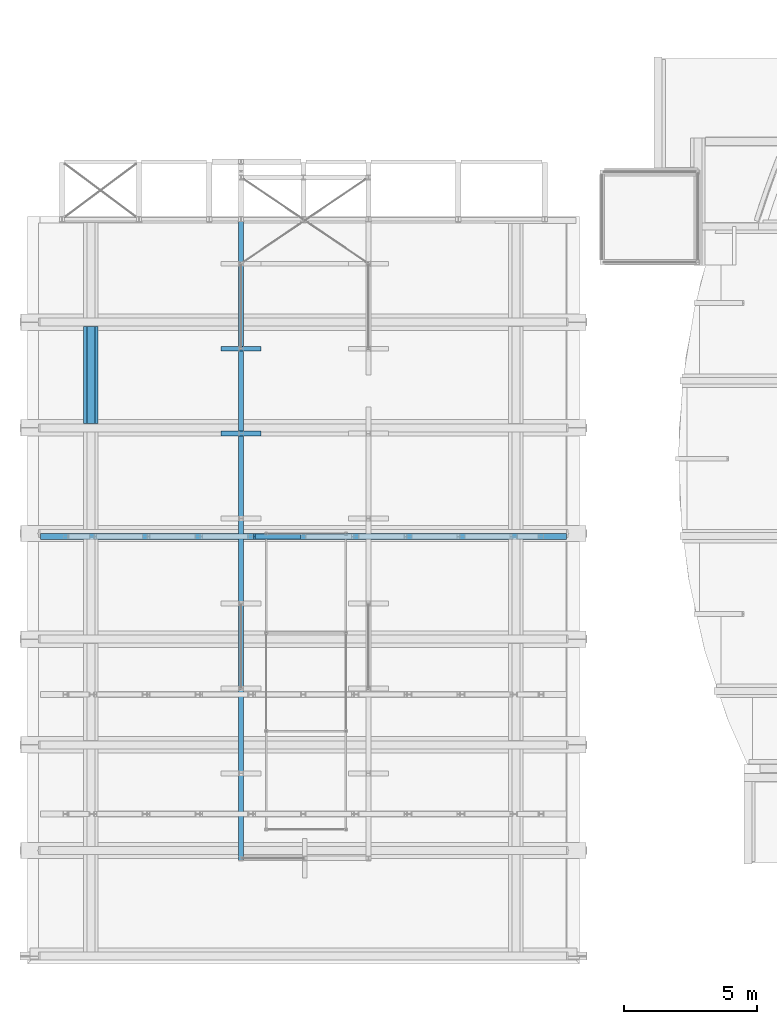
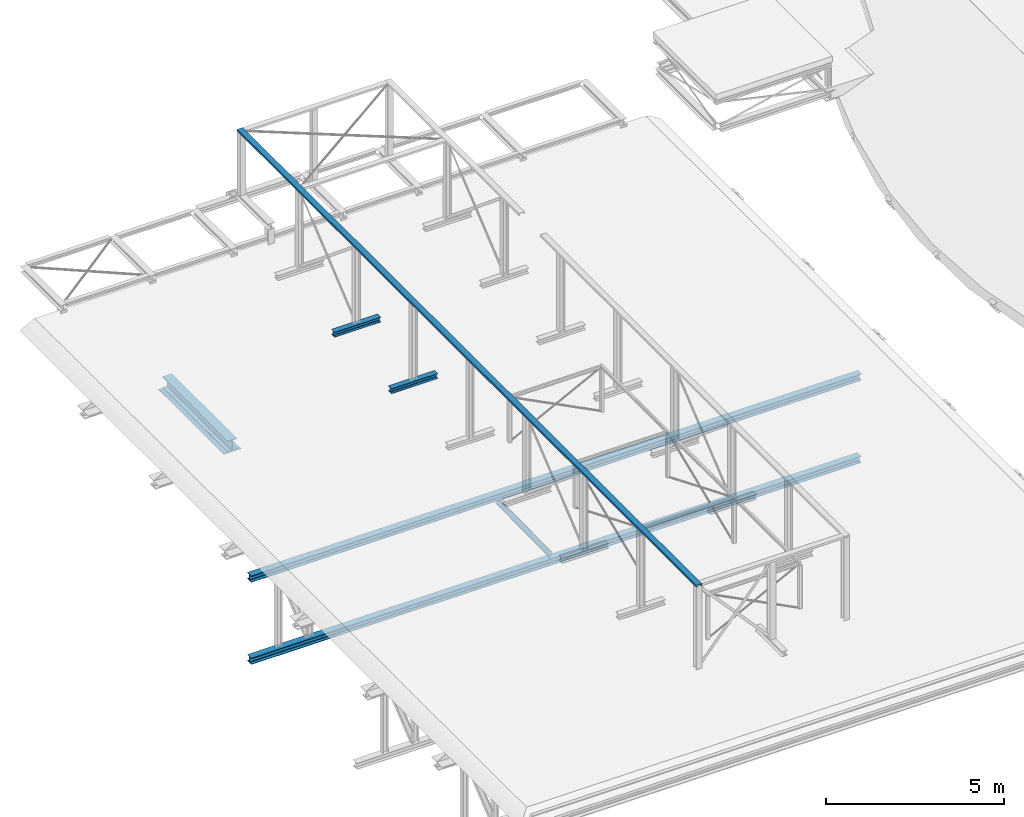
# One storey, part 17 of 50: 7 beams.
"""IFC2X3 building model written with IfcOpenShell, lengths in millimetres."""

from ifc_helpers import new_model, entity, si_unit, converted_unit, derived_unit, direction, frame, frame_2d, origin, place, context, subcontext, project, spatial, polyline, circle_curve, parameter, trimmed, segment, composite_curve, rectangle, i_section, outline, extrude, clip, halfspace, source, transform, mapped, material, material_list, type_object, type_shapes, element, save


model = new_model("IFC2X3")

# Units and contexts
model_context = context("Model", 3, precision=0.01, world=origin(), true_north=direction((6.12303176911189e-17, 1.0)))
body_context = subcontext(model_context, "Body", "Model", "MODEL_VIEW")
ifc_project = project(units=[si_unit("LENGTHUNIT", "METRE", prefix="MILLI"), si_unit("AREAUNIT", "SQUARE_METRE", prefix="MILLI"), si_unit("VOLUMEUNIT", "CUBIC_METRE"), converted_unit("PLANEANGLEUNIT", "DEGREE", entity("IfcRatioMeasure", 0.0174532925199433), si_unit("PLANEANGLEUNIT", "RADIAN"), dimensions=[0, 0, 0, 0, 0, 0, 0]), si_unit("MASSUNIT", "GRAM", prefix="KILO"), derived_unit("MASSDENSITYUNIT", [(si_unit("MASSUNIT", "GRAM", prefix="KILO"), 1), (si_unit("LENGTHUNIT", "METRE"), -3)]), derived_unit("MOMENTOFINERTIAUNIT", [(si_unit("LENGTHUNIT", "METRE"), 4)]), si_unit("TIMEUNIT", "SECOND"), si_unit("FREQUENCYUNIT", "HERTZ"), si_unit("THERMODYNAMICTEMPERATUREUNIT", "DEGREE_CELSIUS"), derived_unit("THERMALTRANSMITTANCEUNIT", [(si_unit("MASSUNIT", "GRAM", prefix="KILO"), 1), (si_unit("THERMODYNAMICTEMPERATUREUNIT", "KELVIN"), -1), (si_unit("TIMEUNIT", "SECOND"), -3)]), derived_unit("VOLUMETRICFLOWRATEUNIT", [(si_unit("LENGTHUNIT", "METRE"), 3), (si_unit("TIMEUNIT", "SECOND"), -1)]), si_unit("ELECTRICCURRENTUNIT", "AMPERE"), si_unit("ELECTRICVOLTAGEUNIT", "VOLT"), si_unit("POWERUNIT", "WATT"), si_unit("FORCEUNIT", "NEWTON", prefix="KILO"), si_unit("ILLUMINANCEUNIT", "LUX"), si_unit("LUMINOUSFLUXUNIT", "LUMEN"), si_unit("LUMINOUSINTENSITYUNIT", "CANDELA"), derived_unit("USERDEFINED", [(si_unit("MASSUNIT", "GRAM", prefix="KILO"), -1), (si_unit("LENGTHUNIT", "METRE"), -2), (si_unit("TIMEUNIT", "SECOND"), 3), (si_unit("LUMINOUSFLUXUNIT", "LUMEN"), 1)]), derived_unit("LINEARVELOCITYUNIT", [(si_unit("LENGTHUNIT", "METRE"), 1), (si_unit("TIMEUNIT", "SECOND"), -1)]), si_unit("PRESSUREUNIT", "PASCAL"), derived_unit("USERDEFINED", [(si_unit("LENGTHUNIT", "METRE"), -2), (si_unit("MASSUNIT", "GRAM", prefix="KILO"), 1), (si_unit("TIMEUNIT", "SECOND"), -2)]), derived_unit("LINEARFORCEUNIT", [(si_unit("MASSUNIT", "GRAM", prefix="KILO"), 1), (si_unit("LENGTHUNIT", "METRE"), 1), (si_unit("TIMEUNIT", "SECOND"), -2), (si_unit("LENGTHUNIT", "METRE"), -1)]), derived_unit("PLANARFORCEUNIT", [(si_unit("MASSUNIT", "GRAM", prefix="KILO"), 1), (si_unit("LENGTHUNIT", "METRE"), 1), (si_unit("TIMEUNIT", "SECOND"), -2), (si_unit("LENGTHUNIT", "METRE"), -2)])], contexts=[model_context])

# Site, building, storey
site_placement = place(None, origin())
site = spatial("IfcSite", under=ifc_project, at=site_placement, Name="Theater aan de Parade", CompositionType="ELEMENT")
building_placement = place(site_placement, origin())
building = spatial("IfcBuilding", under=site, at=building_placement, Name="Theater aan de Parade", CompositionType="ELEMENT")
storey_placement = place(building_placement, frame((0.0, 0.0, 15820.0)))
storey = spatial("IfcBuildingStorey", under=building, at=storey_placement, Name="04 vierde verdieping", CompositionType="ELEMENT", Elevation=15820.0)

# Beams
ifc_material_1 = material(Name="00_PBT_MAT_staal_S355")
beam_type_1 = type_object("IfcBeamType", Name="28_PBT_SF_staal_H-profiel:S355_HE220B", PredefinedType="NOTDEFINED")
beam_1_placement = place(storey_placement, frame((16193.8569884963, 29518.2922984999, -4340.0)))
element("IfcBeam", 1, at=beam_1_placement, inside=storey, type_object=beam_type_1, material=ifc_material_1, Name="28_PBT_SF_staal_H-profiel:S355_HE220B", ObjectType="28_PBT_SF_staal_H-profiel:S355_HE220B", context=body_context, shape_type="SweptSolid", body=[
    extrude(i_section(OverallWidth=220.000000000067, OverallDepth=220.0, WebThickness=9.49999999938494, FlangeThickness=15.9999999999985, FilletRadius=18.0000000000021, at=frame_2d((-1.08713038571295e-12, -2.16715534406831e-12), x_axis=(0.0, 1.0))), frame((0.0, 0.0, 0.0), z_axis=(1.0, 0.0, 0.0), x_axis=(0.0, 0.0, -1.0)), (0.0, 0.0, 1.0), 19820.0),
])
beam_2_placement = place(storey_placement, frame((16193.8569884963, 29518.2922984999, -1520.0)))
element("IfcBeam", 2, at=beam_2_placement, inside=storey, type_object=beam_type_1, material=ifc_material_1, Name="28_PBT_SF_staal_H-profiel:S355_HE220B", ObjectType="28_PBT_SF_staal_H-profiel:S355_HE220B", context=body_context, shape_type="SweptSolid", body=[
    extrude(i_section(OverallWidth=220.000000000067, OverallDepth=220.0, WebThickness=9.49999999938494, FlangeThickness=15.9999999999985, FilletRadius=18.0000000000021, at=frame_2d((1.08713038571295e-12, -2.16715534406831e-12), x_axis=(0.0, 1.0))), frame((0.0, 0.0, 0.0), z_axis=(1.0, 0.0, 0.0), x_axis=(0.0, 0.0, -1.0)), (0.0, 0.0, 1.0), 19820.0),
])
beam_type_2 = type_object("IfcBeamType", Name="28_PBT_SF_staal_H-profiel:S355_HE180A", PredefinedType="NOTDEFINED")
beam_3_placement = place(storey_placement, frame((24111.8569884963, 29518.2922984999, -1520.0), z_axis=(0.816775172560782, 0.0, 0.576956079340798), x_axis=(0.576956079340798, 0.0, -0.816775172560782)))
element("IfcBeam", 3, at=beam_3_placement, inside=storey, type_object=beam_type_2, material=ifc_material_1, Name="28_PBT_SF_staal_H-profiel:S355_HE180A", ObjectType="28_PBT_SF_staal_H-profiel:S355_HE180A", context=body_context, shape_type="Clipping", body=[
    clip(clip(extrude(outline(composite_curve([segment(polyline([(76.0, -90.0), (85.4999999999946, -90.0)]), True, "CONTINUOUS"), segment(polyline([(85.4999999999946, -90.0), (85.4999999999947, 90.0)]), True, "CONTINUOUS"), segment(polyline([(85.4999999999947, 90.0), (76.0, 90.0)]), True, "CONTINUOUS"), segment(polyline([(76.0, 90.0), (76.0, 18.0)]), True, "CONTINUOUS"), segment(trimmed(circle_curve(frame_2d((61.0, 18.0), x_axis=(1.0, 0.0)), 14.9999999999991), [parameter(270.0)], [parameter(0.0)], True, "PARAMETER"), False, "CONTINUOUS"), segment(polyline([(61.0, 3.0), (-61.0, 3.0)]), True, "CONTINUOUS"), segment(trimmed(circle_curve(frame_2d((-61.0, 18.0), x_axis=(0.0, -1.0)), 14.9999999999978), [parameter(269.999999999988)], [parameter(0.0)], True, "PARAMETER"), False, "CONTINUOUS"), segment(polyline([(-76.0, 18.0), (-76.0, 90.0)]), True, "CONTINUOUS"), segment(polyline([(-76.0, 90.0), (-85.5000000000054, 90.0)]), True, "CONTINUOUS"), segment(polyline([(-85.5000000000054, 90.0), (-85.5000000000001, -90.0)]), True, "CONTINUOUS"), segment(polyline([(-85.5000000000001, -90.0), (-76.0, -90.0)]), True, "CONTINUOUS"), segment(polyline([(-76.0, -90.0), (-76.0, -18.0)]), True, "CONTINUOUS"), segment(trimmed(circle_curve(frame_2d((-61.0, -18.0), x_axis=(-1.0, 0.0)), 14.9999999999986), [parameter(269.999999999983)], [parameter(0.0)], True, "PARAMETER"), False, "CONTINUOUS"), segment(polyline([(-61.0, -3.0), (61.0, -3.0)]), True, "CONTINUOUS"), segment(trimmed(circle_curve(frame_2d((61.0, -18.0), x_axis=(0.0, 1.0)), 14.9999999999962), [parameter(269.999999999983)], [parameter(0.0)], True, "PARAMETER"), False, "CONTINUOUS"), segment(polyline([(76.0, -18.0), (76.0, -90.0)]), True, "CONTINUOUS")], self_intersect=False)), frame((207.771728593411, 0.0, 0.0), z_axis=(1.0, 0.0, 0.0), x_axis=(0.0, 0.0, -1.0)), (0.0, 0.0, 1.0), 3037.0590394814), halfspace(frame((2280.29204276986, 110.0, -1481.59297368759), z_axis=(-0.576956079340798, 0.0, -0.816775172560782), x_axis=(-0.816775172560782, 0.0, 0.576956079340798)), False)), halfspace(frame((3307.85082007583, -110.0, -26.9163913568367), z_axis=(0.576956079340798, 0.0, 0.816775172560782), x_axis=(-0.816775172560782, 0.0, 0.576956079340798)), False)),
])
beam_4_placement = place(storey_placement, frame((24503.8569986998, 33398.8337248, 0.0), z_axis=(0.0, 0.0, 1.0), x_axis=(-1.0, 0.0, 0.0)))
element("IfcBeam", 4, at=beam_4_placement, inside=storey, type_object=beam_type_2, material=ifc_material_1, Name="28_PBT_SF_staal_H-profiel:S355_HE180A", ObjectType="28_PBT_SF_staal_H-profiel:S355_HE180A", context=body_context, shape_type="SweptSolid", body=[
    extrude(outline(composite_curve([segment(polyline([(76.0, -90.0), (85.5000000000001, -90.0)]), True, "CONTINUOUS"), segment(polyline([(85.5000000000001, -90.0), (85.5000000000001, 90.0)]), True, "CONTINUOUS"), segment(polyline([(85.5000000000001, 90.0), (76.0, 90.0)]), True, "CONTINUOUS"), segment(polyline([(76.0, 90.0), (76.0, 18.0)]), True, "CONTINUOUS"), segment(trimmed(circle_curve(frame_2d((61.0, 18.0), x_axis=(1.0, 0.0)), 15.0000000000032), [parameter(270.000000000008)], [parameter(0.0)], True, "PARAMETER"), False, "CONTINUOUS"), segment(polyline([(61.0, 3.0), (-61.0, 3.0)]), True, "CONTINUOUS"), segment(trimmed(circle_curve(frame_2d((-61.0, 18.0), x_axis=(0.0, -1.0)), 15.0000000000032), [parameter(270.000000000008)], [parameter(0.0)], True, "PARAMETER"), False, "CONTINUOUS"), segment(polyline([(-76.0, 18.0), (-76.0, 90.0)]), True, "CONTINUOUS"), segment(polyline([(-76.0, 90.0), (-85.5000000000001, 90.0)]), True, "CONTINUOUS"), segment(polyline([(-85.5000000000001, 90.0), (-85.5000000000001, -90.0)]), True, "CONTINUOUS"), segment(polyline([(-85.4999999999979, -90.0), (-76.0, -90.0)]), True, "CONTINUOUS"), segment(polyline([(-76.0, -90.0), (-76.0, -18.0)]), True, "CONTINUOUS"), segment(trimmed(circle_curve(frame_2d((-61.0, -18.0), x_axis=(-1.0, 0.0)), 15.0000000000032), [parameter(270.000000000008)], [parameter(0.0)], True, "PARAMETER"), False, "CONTINUOUS"), segment(polyline([(-61.0, -3.0), (61.0, -3.0)]), True, "CONTINUOUS"), segment(trimmed(circle_curve(frame_2d((61.0, -18.0), x_axis=(0.0, 1.0)), 15.0000000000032), [parameter(270.000000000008)], [parameter(0.0)], True, "PARAMETER"), False, "CONTINUOUS"), segment(polyline([(76.0, -18.0), (76.0, -90.0)]), True, "CONTINUOUS")], self_intersect=False)), frame((0.0, 0.0, 184.499999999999), z_axis=(1.0, 0.0, 0.0), x_axis=(0.0, 0.0, -1.0)), (0.0, 0.0, 1.0), 1500.00000000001),
])
beam_5_placement = place(storey_placement, frame((24503.8569986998, 36598.8337248, 0.0), z_axis=(0.0, 0.0, 1.0), x_axis=(-1.0, 0.0, 0.0)))
element("IfcBeam", 5, at=beam_5_placement, inside=storey, type_object=beam_type_2, material=ifc_material_1, Name="28_PBT_SF_staal_H-profiel:S355_HE180A", ObjectType="28_PBT_SF_staal_H-profiel:S355_HE180A", context=body_context, shape_type="SweptSolid", body=[
    extrude(outline(composite_curve([segment(polyline([(76.0, -90.0), (85.5000000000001, -90.0)]), True, "CONTINUOUS"), segment(polyline([(85.5000000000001, -90.0), (85.5000000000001, 90.0)]), True, "CONTINUOUS"), segment(polyline([(85.5000000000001, 90.0), (76.0, 90.0)]), True, "CONTINUOUS"), segment(polyline([(76.0, 90.0), (76.0, 18.0)]), True, "CONTINUOUS"), segment(trimmed(circle_curve(frame_2d((61.0, 18.0), x_axis=(1.0, 0.0)), 15.0000000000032), [parameter(270.000000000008)], [parameter(0.0)], True, "PARAMETER"), False, "CONTINUOUS"), segment(polyline([(61.0, 3.0), (-61.0, 3.0)]), True, "CONTINUOUS"), segment(trimmed(circle_curve(frame_2d((-61.0, 18.0), x_axis=(0.0, -1.0)), 15.0000000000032), [parameter(270.000000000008)], [parameter(0.0)], True, "PARAMETER"), False, "CONTINUOUS"), segment(polyline([(-76.0, 18.0), (-76.0, 90.0)]), True, "CONTINUOUS"), segment(polyline([(-76.0, 90.0), (-85.5000000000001, 90.0)]), True, "CONTINUOUS"), segment(polyline([(-85.5000000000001, 90.0), (-85.5000000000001, -90.0)]), True, "CONTINUOUS"), segment(polyline([(-85.4999999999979, -90.0), (-76.0, -90.0)]), True, "CONTINUOUS"), segment(polyline([(-76.0, -90.0), (-76.0, -18.0)]), True, "CONTINUOUS"), segment(trimmed(circle_curve(frame_2d((-61.0, -18.0), x_axis=(-1.0, 0.0)), 15.0000000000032), [parameter(270.000000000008)], [parameter(0.0)], True, "PARAMETER"), False, "CONTINUOUS"), segment(polyline([(-61.0, -3.0), (61.0, -3.0)]), True, "CONTINUOUS"), segment(trimmed(circle_curve(frame_2d((61.0, -18.0), x_axis=(0.0, 1.0)), 15.0000000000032), [parameter(270.000000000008)], [parameter(0.0)], True, "PARAMETER"), False, "CONTINUOUS"), segment(polyline([(76.0, -18.0), (76.0, -90.0)]), True, "CONTINUOUS")], self_intersect=False)), frame((0.0, 0.0, 184.499999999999), z_axis=(1.0, 0.0, 0.0), x_axis=(0.0, 0.0, -1.0)), (0.0, 0.0, 1.0), 1500.00000000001),
])
ifc_material_2 = material(Name="00_PBT_MAT_Lucht")
ifc_material_list = material_list([ifc_material_2, ifc_material_1])
beam_type_3 = type_object("IfcBeamType", Name="28_PBT_SF_staal_H-profiel_met_onderplaat (void):S355_HE400A + onderplaat d=20", PredefinedType="BEAM", material=ifc_material_list)
shared_shape = source(origin(), body_context, "Body", "SweptSolid", [
    extrude(i_section(OverallWidth=299.999999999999, OverallDepth=390.0, WebThickness=10.9999999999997, FlangeThickness=19.0, FilletRadius=27.0000000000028, at=frame_2d((0.0, -1.08002495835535e-12), x_axis=(1.0, 0.0))), frame((18098.3570025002, 33771.9774014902, 15585.0), z_axis=(0.0, 1.0, 0.0), x_axis=(-1.0, 0.0, 0.0)), (0.0, 0.0, 1.0), 3664.50000000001),
    extrude(rectangle(XDim=19.9999999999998, YDim=550.000000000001, at=frame_2d((2.1600499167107e-12, -1.08268949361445e-12), x_axis=(0.0, 1.0))), frame((18098.3570025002, 33771.9774014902, 15380.0), z_axis=(0.0, 1.0, 0.0), x_axis=(-1.0, 0.0, 0.0)), (0.0, 0.0, 1.0), 3664.50000000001),
])
type_shapes(beam_type_3, [shared_shape])
beam_6_placement = place(storey_placement, frame((0.0, 0.0, -15820.0)))
element("IfcBeam", 6, at=beam_6_placement, inside=storey, type_object=beam_type_3, material=ifc_material_1, Name="28_PBT_SF_staal_H-profiel_met_onderplaat (void):S355_HE400A + onderplaat d=20", ObjectType="28_PBT_SF_staal_H-profiel_met_onderplaat (void):S355_HE400A + onderplaat d=20", context=body_context, shape_type="MappedRepresentation", body=[
    mapped(shared_shape, transform((0.0, 0.0, 0.0), scale=1.0)),
])
beam_type_4 = type_object("IfcBeamType", Name="28_PBT_SF_staal_UNP-profiel:S355_UNP180", PredefinedType="NOTDEFINED")
beam_7_placement = place(storey_placement, frame((23753.8569986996, 17308.8337248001, 2990.0), z_axis=(0.0, 0.0, 1.0), x_axis=(0.0, 1.0, 0.0)))
element("IfcBeam", 7, at=beam_7_placement, inside=storey, type_object=beam_type_4, material=ifc_material_1, Name="28_PBT_SF_staal_UNP-profiel:S355_UNP180", ObjectType="28_PBT_SF_staal_UNP-profiel:S355_UNP180", context=body_context, shape_type="SweptSolid", body=[
    extrude(outline(composite_curve([segment(polyline([(-38.5102335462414, -90.0), (31.4897664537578, -90.0)]), True, "CONTINUOUS"), segment(polyline([(31.4897664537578, -90.0), (31.4897664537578, -86.87757192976)]), True, "CONTINUOUS"), segment(trimmed(circle_curve(frame_2d((25.9897664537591, -86.87757192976), x_axis=(1.0, 0.0)), 5.50000000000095), [parameter(0.0)], [parameter(85.4260787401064)], True, "PARAMETER"), True, "CONTINUOUS"), segment(polyline([(26.4283651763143, -81.3950878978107), (-20.3874309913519, -77.6498242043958)]), True, "CONTINUOUS"), segment(trimmed(circle_curve(frame_2d((-19.5102335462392, -66.6848561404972), x_axis=(-0.0797452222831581, -0.996815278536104)), 11.0000000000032), [parameter(274.573921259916)], [parameter(0.0)], True, "PARAMETER"), False, "CONTINUOUS"), segment(polyline([(-30.5102335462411, -66.6848561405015), (-30.5102335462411, 66.6848561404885)]), True, "CONTINUOUS"), segment(trimmed(circle_curve(frame_2d((-19.5102335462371, 66.6848561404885), x_axis=(-1.0, 0.0)), 11.0000000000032), [parameter(274.573921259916)], [parameter(0.0)], True, "PARAMETER"), False, "CONTINUOUS"), segment(polyline([(-20.3874309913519, 77.6498242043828), (26.4283651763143, 81.3950878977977)]), True, "CONTINUOUS"), segment(trimmed(circle_curve(frame_2d((25.9897664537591, 86.877571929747), x_axis=(0.0797452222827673, -0.996815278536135)), 5.50000000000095), [parameter(0.0)], [parameter(85.4260787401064)], True, "PARAMETER"), True, "CONTINUOUS"), segment(polyline([(31.48976645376, 86.8775719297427), (31.48976645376, 90.0)]), True, "CONTINUOUS"), segment(polyline([(31.48976645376, 90.0), (-38.5102335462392, 90.0)]), True, "CONTINUOUS"), segment(polyline([(-38.5102335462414, 90.0), (-38.5102335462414, -90.0)]), True, "CONTINUOUS")], self_intersect=False)), frame((0.0, 0.0, -38.5102335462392), z_axis=(1.0, 0.0, 0.0), x_axis=(0.0, 0.0, -1.0)), (0.0, 0.0, 1.0), 25831.4171473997),
])

save(model, "model.ifc")
